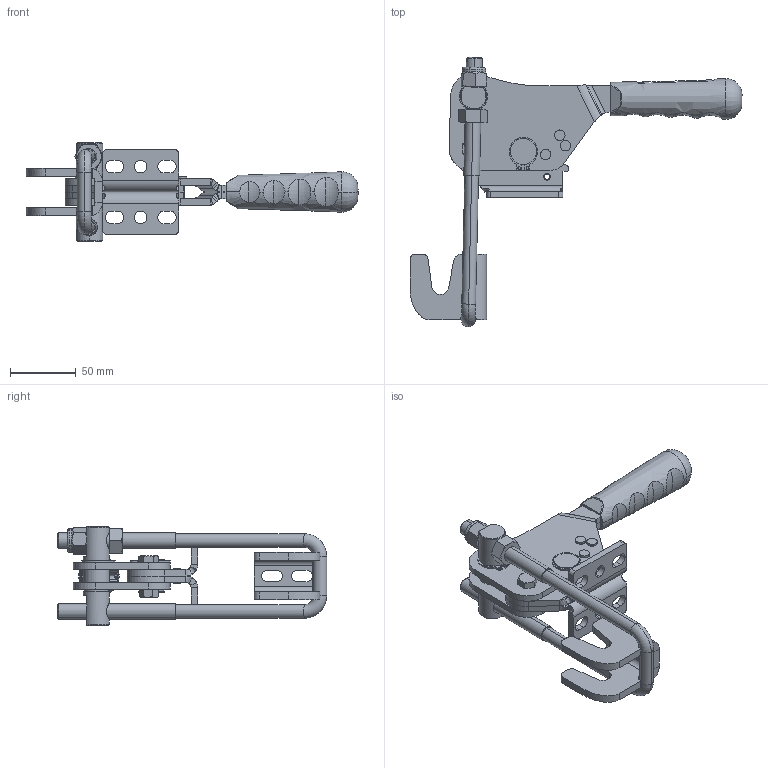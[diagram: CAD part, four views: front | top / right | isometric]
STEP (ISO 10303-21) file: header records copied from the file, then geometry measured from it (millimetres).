
FILE_DESCRIPTION (( 'STEP AP203' ), '1' );
FILE_NAME ('13212_Y.STEP', '2022-11-30T12:06:04', ( '' ), ( '' ), 'SwSTEP 2.0', 'SolidWorks 2023', '' );
FILE_SCHEMA (( 'CONFIG_CONTROL_DESIGN' ));
Length unit declared in the file: millimetre
Products named in the file (18): Aynalama13210 Gövde; hexagon_bolt_jis_b_1180_c_m8_x25_Varsayılan; Aynalama13210 H kolu; M12_U_Kanca_Varsayılan; circlips_o20-uni_7435; M8 Somun_Varsayılan; 1391_Kanca mili_Varsayılan; Karşılık kancası m 12; C100_T_10x20(YENİ_TUTAMAK_10x20)_Varsayılan; autolock_nut_h_fr_nf_e_25-409_m12_6_1; cap 20 malzeme ; 13212_Y; 5-12-1330659; Pim_5x22_Varsayılan; mandal 2; 13210 H kolu; 07210-12; 13210 Gövde
Assembly tree (19 placements, depth 2):
  13212_Y
    13210 Gövde
    13210 H kolu
    Aynalama13210 Gövde
    1391_Kanca mili_Varsayılan
    Pim_5x22_Varsayılan  x3
    M8 Somun_Varsayılan
    M12_U_Kanca_Varsayılan
    cap 20 malzeme 
    Karşılık kancası m 12
    Aynalama13210 H kolu
    07210-12
    5-12-1330659
    autolock_nut_h_fr_nf_e_25-409_m12_6_1
    circlips_o20-uni_7435  x2
    hexagon_bolt_jis_b_1180_c_m8_x25_Varsayılan
    C100_T_10x20(YENİ_TUTAMAK_10x20)_Varsayılan
  mandal 2
Bounding box: 252.9 x 205.31 x 75 mm (x, y, z)
Volume: 267990.9 mm3; surface area: 119851.1 mm2
Topology: 19 solids, 19 shells, 756 faces, 1899 edges, 1207 vertices
Faces by surface type: plane 391, cylinder 243, cone 54, torus 36, bspline 32
Entity records: 24332 total; most frequent: CARTESIAN_POINT 7383, ORIENTED_EDGE 3148, DIRECTION 3076, EDGE_CURVE 1574, AXIS2_PLACEMENT_3D 1120, VERTEX_POINT 1001, VECTOR 836, LINE 836
